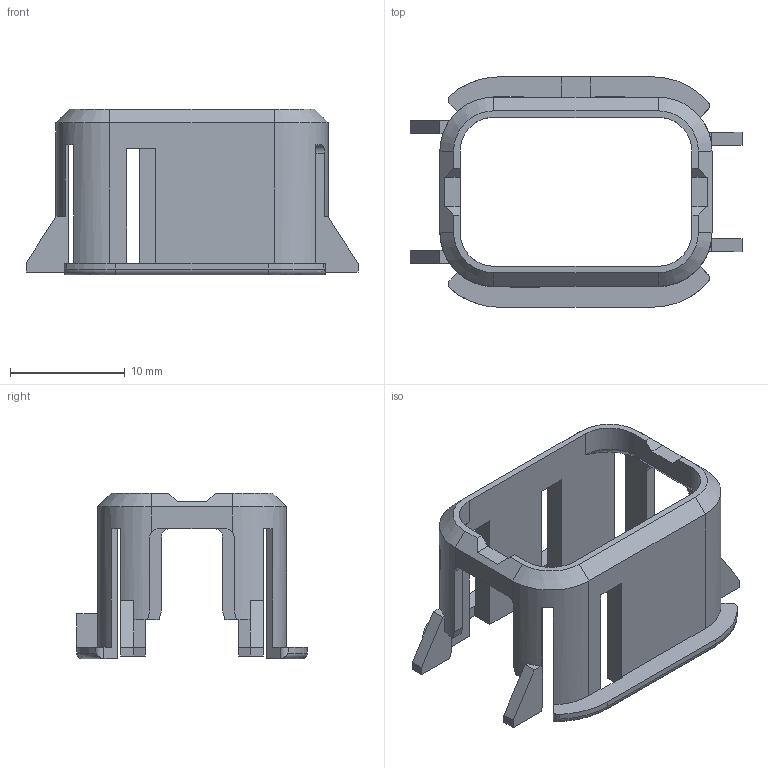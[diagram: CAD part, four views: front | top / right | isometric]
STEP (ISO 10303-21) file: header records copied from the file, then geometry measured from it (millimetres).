
FILE_DESCRIPTION((''),'2;1');
FILE_NAME('C-1011-048-0805','2013-07-26T',('workeradm'),('Tyco Electronics Ltd.'),'PRO/ENGINEER BY PARAMETRIC TECHNOLOGY CORPORATION, 2011490','PRO/ENGINEER BY PARAMETRIC TECHNOLOGY CORPORATION, 2011490','');
FILE_SCHEMA(('AUTOMOTIVE_DESIGN { 1 0 10303 214 1 1 1 1 }'));
Length unit declared in the file: millimetre
Products named in the file (1): C-1011-048-0805
Bounding box: 28.98 x 20.12 x 14.48 mm (x, y, z)
Volume: 1137.8 mm3; surface area: 2047.9 mm2
Topology: 1 solids, 1 shells, 138 faces, 406 edges, 262 vertices
Faces by surface type: plane 98, cylinder 24, bspline 8, cone 4, torus 4
Entity records: 5265 total; most frequent: CARTESIAN_POINT 1239, ORIENTED_EDGE 812, DIRECTION 726, EDGE_CURVE 406, VECTOR 322, LINE 322, VERTEX_POINT 262, AXIS2_PLACEMENT_3D 202
